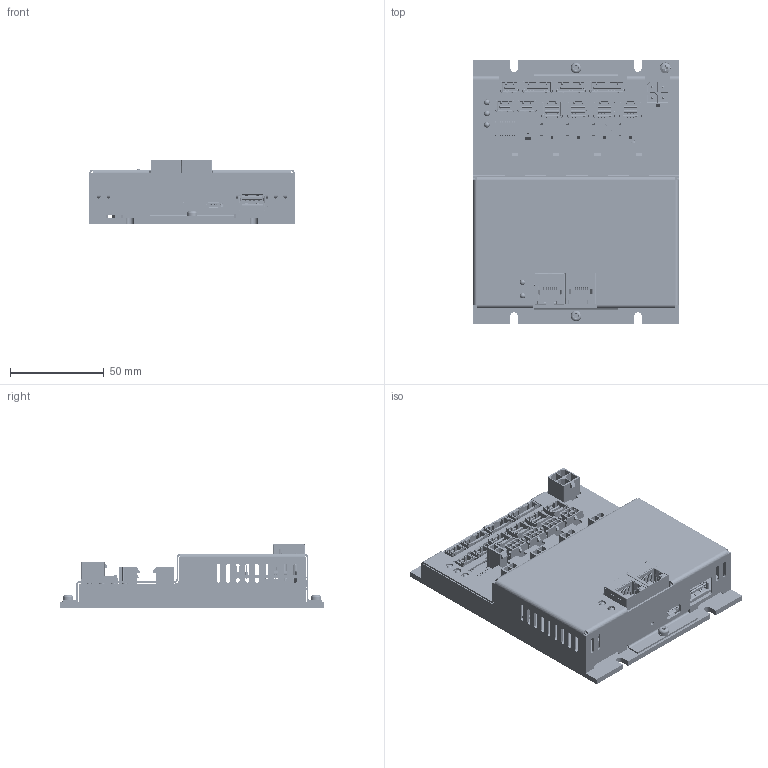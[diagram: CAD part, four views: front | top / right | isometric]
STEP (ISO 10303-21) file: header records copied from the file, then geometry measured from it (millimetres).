
FILE_DESCRIPTION(/* description */ (''),/* implementation_level */ '2;1');
FILE_NAME(/* name */ 'M:/Data_Disk/Products_Hw/_PRODUKTIONS_DATEN/zd000257_/zd000257_05/001/CAD_MiniMACS6-AMP-4-50-10_zd000275-001.step',/* time_stamp */ '2020-11-06T09:37:13+01:00',/* author */ (''),/* organization */ (''),/* preprocessor_version */ 'ST-DEVELOPER v18.1',/* originating_system */ 'Autodesk Translation Framework v9.3.0.1241',/* authorisation */ '');
FILE_SCHEMA (('AUTOMOTIVE_DESIGN { 1 0 10303 214 3 1 1 }'));
Products named in the file (185): Assemly_light; Kühlplatte; Silpad; MiniMAC6-AMP-4/50/10-IF1_Light; Board; Open CASCADE STEP translator 6.8 1.1; Open CASCADE STEP translator 6.8 1.1.1; X12; 87583-2010blf; T1; 6603623856; Extruded (13); SW1; TL3340AF160QG; 2000862_Housing; 2000862_Bracket; 2000862_Actuator; X10; X20; X30; X40; 460150402; Open CASCADE STEP translator 6.8 1.122.1; Open CASCADE STEP translator 6.8 1.122.1 (1); X11; X21; X31; X41; 430450612; Open CASCADE STEP translator 6.8 1.300.1; Open CASCADE STEP translator 6.8 1.300.1 (1); X3; X90; X91; MTMM-107-14-T-D-550; _MTMM-107-14-T-D-550_pins; _MTMM-107-14-T-D-550_body; X5; 768290104; Open CASCADE STEP translator 6.8 1.360.1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
Assembly tree (313 placements, depth 6):
  Assemly_light
    Kühlplatte
    Silpad
    MiniMAC6-AMP-4/50/10-IF1_Light
      Board
        Open CASCADE STEP translator 6.8 1.1
          Open CASCADE STEP translator 6.8 1.1.1
      X12
        87583-2010blf
      T1
        6603623856
          Extruded (13)
      SW1
        TL3340AF160QG
          2000862_Housing
          2000862_Bracket
          2000862_Actuator
      X10
        460150402
          Open CASCADE STEP translator 6.8 1.122.1
          Open CASCADE STEP translator 6.8 1.122.1 (1)
      X20
        460150402
          Open CASCADE STEP translator 6.8 1.122.1
          Open CASCADE STEP translator 6.8 1.122.1 (1)
      X30
        460150402
          Open CASCADE STEP translator 6.8 1.122.1
          Open CASCADE STEP translator 6.8 1.122.1 (1)
      X40
        460150402
          Open CASCADE STEP translator 6.8 1.122.1
          Open CASCADE STEP translator 6.8 1.122.1 (1)
      X11
        430450612
          Open CASCADE STEP translator 6.8 1.300.1
          Open CASCADE STEP translator 6.8 1.300.1 (1)
      X21
        430450612
          Open CASCADE STEP translator 6.8 1.300.1
          Open CASCADE STEP translator 6.8 1.300.1 (1)
      X31
        430450612
          Open CASCADE STEP translator 6.8 1.300.1
          Open CASCADE STEP translator 6.8 1.300.1 (1)
      X41
        430450612
          Open CASCADE STEP translator 6.8 1.300.1
          Open CASCADE STEP translator 6.8 1.300.1 (1)
      X3
        5025840470
          Open CASCADE STEP translator 6.8 1.319.1 (1)
          Open CASCADE STEP translator 6.8 1.319.1
      X90
        MTMM-107-14-T-D-550
          _MTMM-107-14-T-D-550_pins
          _MTMM-107-14-T-D-550_body
      X91
        MTMM-107-14-T-D-550
          _MTMM-107-14-T-D-550_pins
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Bounding box: 109.5 x 140.5 x 34.25 mm (x, y, z)
Volume: 127685.7 mm3; surface area: 168277.2 mm2
Topology: 333 solids, 339 shells, 19650 faces, 53422 edges, 34539 vertices
Faces by surface type: plane 14868, cylinder 3970, bspline 505, cone 165, sphere 90, torus 52
Full cylindrical faces by diameter (mm): 0.077 x4, 0.158 x4, 0.2 x8, 0.46 x2, 0.5 x7, 0.7 x24, 0.8 x35, 0.86 x8, 0.9 x3, 0.97 x24, 1 x38, 1.2 x15, 1.4 x19, 1.65 x2, 1.8 x9, 2 x2, 2.013 x8, 2.075 x6, 2.1 x1, 2.3 x3, 2.5 x19, 2.529 x3, 2.7 x22, 2.807 x1, 2.9 x1, 3 x9, 3.2 x2, 3.25 x7, 3.332 x2, 3.8 x3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
Entity records: 331792 total; most frequent: CARTESIAN_POINT 78364, ORIENTED_EDGE 53079, DIRECTION 49019, EDGE_CURVE 26540, LINE 21647, VECTOR 21647, VERTEX_POINT 17166, AXIS2_PLACEMENT_3D 13686
